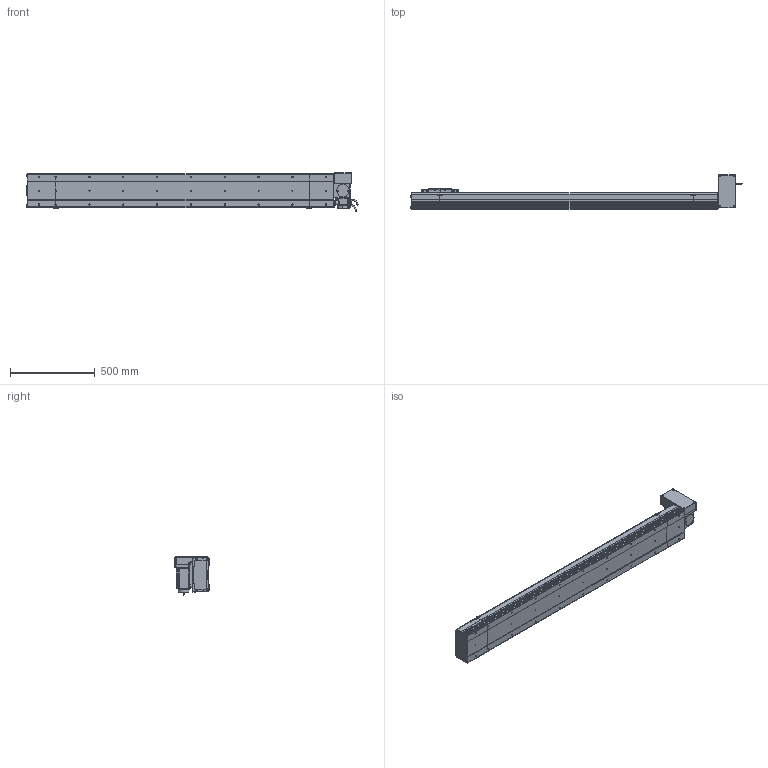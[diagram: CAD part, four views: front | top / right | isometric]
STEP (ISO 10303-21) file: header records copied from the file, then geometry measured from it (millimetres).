
FILE_DESCRIPTION (( 'STEP AP214' ), '1' );
FILE_NAME ('D20 CBH LT S1500.STEP', '2010-06-30T09:32:56', ( 'Conseil Régional Haute-Normandie' ), ( 'Conseil Régional Haute-Normandie' ), 'SwSTEP 2.0', 'SolidWorks 2010', '' );
FILE_SCHEMA (( 'AUTOMOTIVE_DESIGN' ));
Length unit declared in the file: millimetre
Products named in the file (31): Moteur motionking 90BLDC125A-640; Conecteur2_Default; avant 90BLDC125A-640; Support moteur LT_Default; Rondelle Cache D20 LT_Default; Corp D20 S1500_Default; Glissiere_Default; Chariot D20_Default; Corp Tail D20+100_Default; Tail D20+100_Default; Couvercle S1500_Default; Corp S1500_Default; Plaque de Bout Tail D20_Default; Couvercle_Default; vis M5 L15_Default; Plaque De Serrage D20_Default; vis M5 L30_Default; Support Chariot D20_Default; Conecteur_Default; corps 90BLDC125A-640; Plaque de Bout Head D20 LT_Default; Plaque De Serrage D20 LT_Default; codeur 90BLDC125-640; Cache Support Moteur LT_Default; vis M5 L47_Default; ecrou_Default; Couvercle LT_Default; Head LT_Default; Corp Tail D20 LT_Default; D20 CBH LT S1500
Assembly tree (66 placements, depth 4):
  D20 CBH LT S1500
    Chariot D20_Default
      vis M5 L15_Default  x8
      Support Chariot D20_Default
      Chariot D20_Default
      Glissiere_Default
    Tail D20+100_Default
      Couvercle_Default
      vis M5 L15_Default  x6
      Corp Tail D20+100_Default
      Plaque De Serrage D20_Default
      Plaque de Bout Tail D20_Default
    Corp D20 S1500_Default
      Corp S1500_Default
      Couvercle S1500_Default
    Head LT_Default
      Corp Tail D20 LT_Default
      vis M5 L47_Default  x4
      vis M5 L30_Default  x4
      vis M5 L15_Default  x12
      Moteur motionking 90BLDC125A-640
        corps 90BLDC125A-640
        Conecteur2_Default
        avant 90BLDC125A-640
        Conecteur_Default
        codeur 90BLDC125-640
      Couvercle LT_Default
      ecrou_Default  x4
      Rondelle Cache D20 LT_Default  x3
      Cache Support Moteur LT_Default
      Support moteur LT_Default
      Plaque de Bout Head D20 LT_Default
      Plaque De Serrage D20 LT_Default
Bounding box: 1963.45 x 202.5 x 229.7 mm (x, y, z)
Volume: 13687978.2 mm3; surface area: 2726469.5 mm2
Topology: 103 solids, 103 shells, 3768 faces, 9458 edges, 6148 vertices
Faces by surface type: plane 2095, bspline 806, cylinder 704, torus 91, cone 68, sphere 4
Entity records: 160558 total; most frequent: CARTESIAN_POINT 83218, ORIENTED_EDGE 15384, DIRECTION 11592, EDGE_CURVE 7692, VERTEX_POINT 5092, LINE 4952, VECTOR 4952, AXIS2_PLACEMENT_3D 3320
